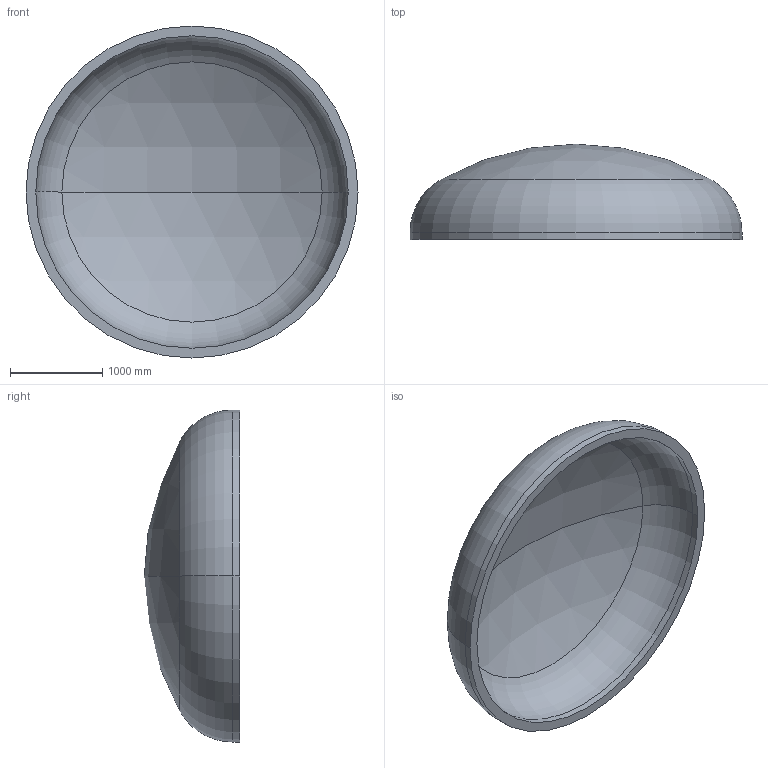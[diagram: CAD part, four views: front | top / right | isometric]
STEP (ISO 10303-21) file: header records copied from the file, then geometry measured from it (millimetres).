
FILE_DESCRIPTION (( 'STEP AP203' ), '1' );
FILE_NAME ('DIN 28013 Korbbogenform_-_Boden DIN 28013 - 3600 x 75 - I - s=106.step', '2016-07-01T20:51:07', ( '' ), ( '' ), 'SwSTEP 2.0', 'SolidWorks 2013', '' );
FILE_SCHEMA (( 'CONFIG_CONTROL_DESIGN' ));
Length unit declared in the file: millimetre
Products named in the file (1): DIN 28013 Korbbogenform_-_Boden DIN 28013 - 3600 x 75 - I - s=106
Bounding box: 3600 x 1034.1 x 3600 mm (x, y, z)
Volume: 1525490789.8 mm3; surface area: 29969900.7 mm2
Topology: 1 solids, 1 shells, 13 faces, 24 edges, 14 vertices
Faces by surface type: torus 4, cylinder 4, sphere 4, plane 1
Entity records: 407 total; most frequent: DIRECTION 72, CARTESIAN_POINT 52, ORIENTED_EDGE 48, AXIS2_PLACEMENT_3D 34, EDGE_CURVE 24, CIRCLE 20, VERTEX_POINT 14, EDGE_LOOP 14
